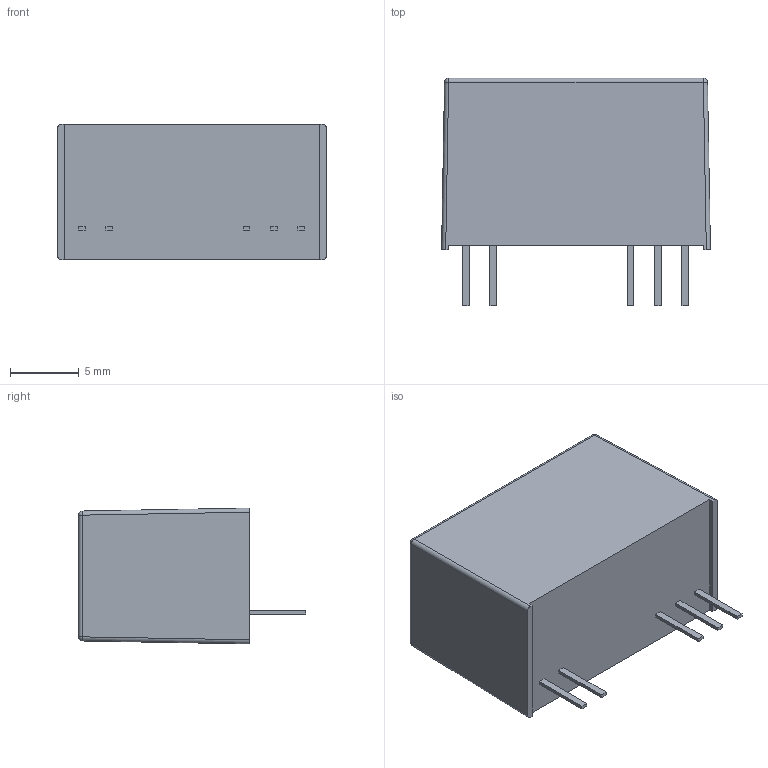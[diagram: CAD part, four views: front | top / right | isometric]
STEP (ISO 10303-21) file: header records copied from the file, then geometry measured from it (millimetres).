
FILE_DESCRIPTION (( 'STEP AP214' ), '1' );
FILE_NAME ('TRV 2M_dual output.STEP', '2022-08-18T02:56:25', ( '' ), ( '' ), 'SwSTEP 2.0', 'SolidWorks 2016', '' );
FILE_SCHEMA (( 'AUTOMOTIVE_DESIGN' ));
Length unit declared in the file: millimetre
Products named in the file (1): TRV 2M_dual output
Bounding box: 19.6 x 16.6 x 9.9 mm (x, y, z)
Volume: 2291.4 mm3; surface area: 1116 mm2
Topology: 1 solids, 1 shells, 47 faces, 112 edges, 68 vertices
Faces by surface type: plane 35, cylinder 8, sphere 4
Entity records: 1574 total; most frequent: CARTESIAN_POINT 236, ORIENTED_EDGE 216, DIRECTION 212, EDGE_CURVE 108, VECTOR 92, LINE 92, VERTEX_POINT 68, AXIS2_PLACEMENT_3D 60
